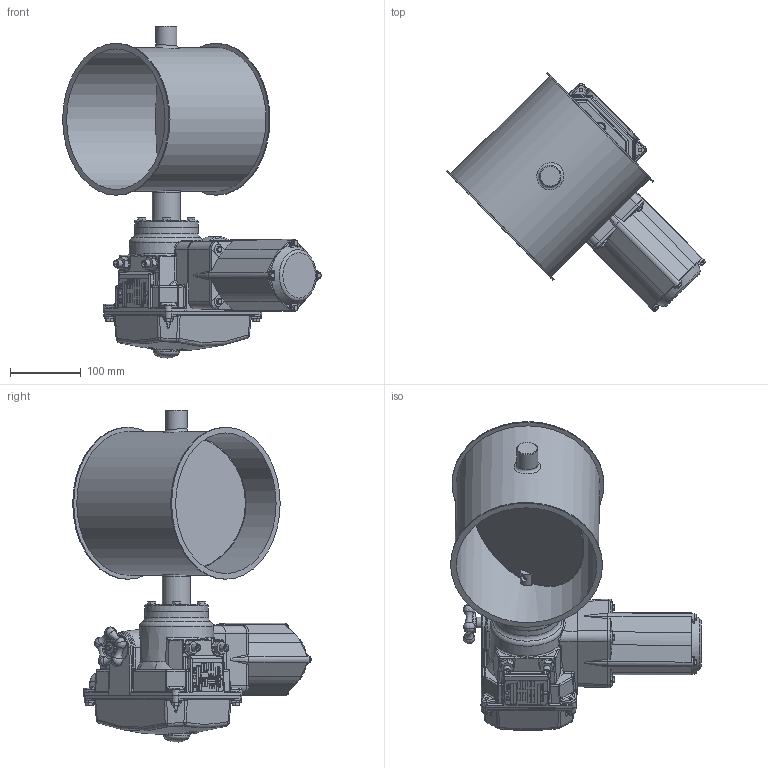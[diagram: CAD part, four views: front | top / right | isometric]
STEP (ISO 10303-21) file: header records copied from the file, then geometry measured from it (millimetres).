
FILE_DESCRIPTION((''),'2;1');
FILE_NAME('U:\Wolfgang\Marcel-3D\fertig\Kapitel 8\2021217.stp','2012-01-13T11:07:50',('iwienholt'),(''),'Autodesk Inventor 2010','Autodesk Inventor 2010','');
FILE_SCHEMA(('AUTOMOTIVE_DESIGN { 1 0 10303 214 1 1 1 1 }'));
Length unit declared in the file: millimetre
Products named in the file (8): 2021217; Bolzen D20; Scheibe200b; 2021211-1; D20 Antrieb LE-10; DIN EN ISO 4018 M6x25; LEB100cc; BuchseD20 90-50
Assembly tree (11 placements, depth 3):
  2021217
    Bolzen D20  x2
    Scheibe200b
    2021211-1
    D20 Antrieb LE-10
      DIN EN ISO 4018 M6x25  x4
      LEB100cc
      BuchseD20 90-50
Bounding box: 366.02 x 337.58 x 469.82 mm (x, y, z)
Volume: 4905480.8 mm3; surface area: 624062.5 mm2
Topology: 10 solids, 10 shells, 1473 faces, 3735 edges, 2351 vertices
Faces by surface type: plane 744, cylinder 284, bspline 235, cone 83, torus 82, sphere 45
Full cylindrical faces by diameter (mm): 5 x4, 5.1 x8, 6 x12, 6.9 x8, 10 x4, 15 x1, 16 x1, 17 x1, 18.6 x2, 20 x4, 20.5 x1, 30 x2, 35 x1, 40 x2, 42 x1, 90 x1, 199 x2, 203 x1, 215 x2
Entity records: 51706 total; most frequent: CARTESIAN_POINT 19317, ORIENTED_EDGE 6710, DIRECTION 5828, EDGE_CURVE 3355, VERTEX_POINT 2208, AXIS2_PLACEMENT_3D 2038, VECTOR 1752, LINE 1752
